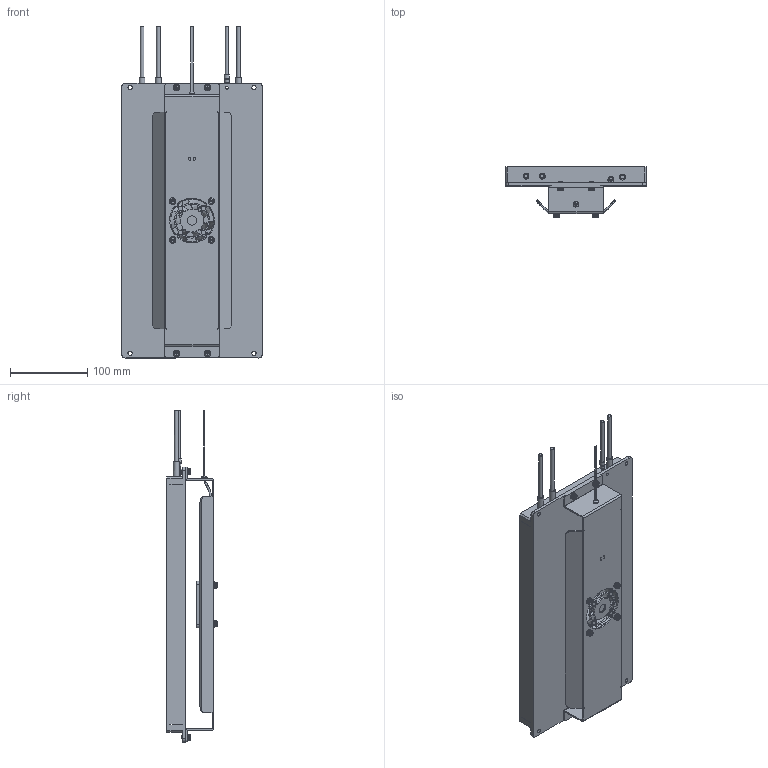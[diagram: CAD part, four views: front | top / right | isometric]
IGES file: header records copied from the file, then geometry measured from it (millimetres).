
Global section: file name: TWC-2500W-A-RXCOIL-H24.5-FAN; native system: Autodesk Inventor 2021; preprocessor: unknown; author: eunsol jang; date: 20240531.134951; units: inch
Bounding box: 181 x 65.23 x 428.7 mm (x, y, z)
Volume: 771307.1 mm3; surface area: 380340.8 mm2
Topology: 5 solids, 5 shells, 2285 faces, 6166 edges, 4121 vertices
Faces by surface type: bspline 2285
